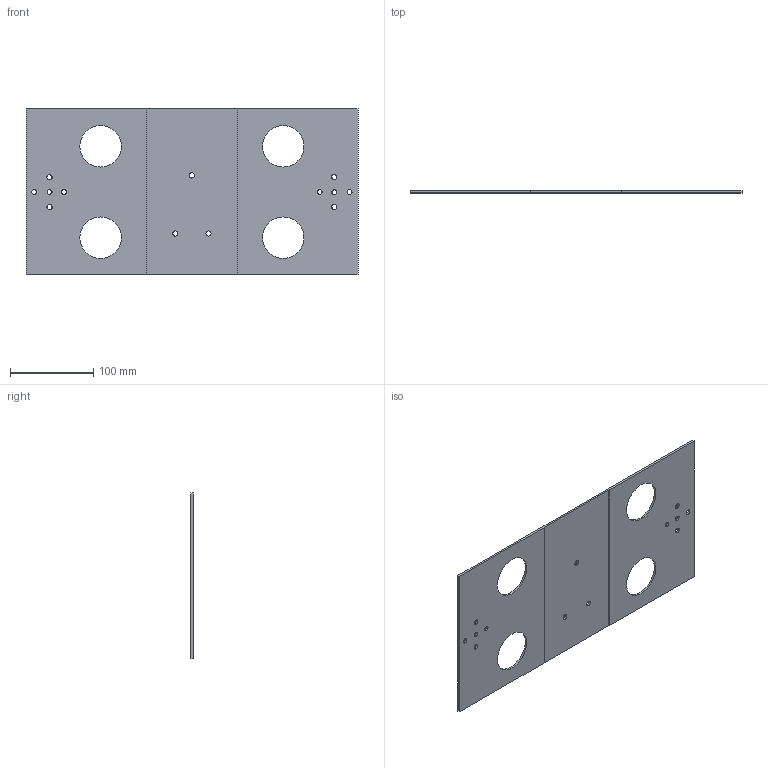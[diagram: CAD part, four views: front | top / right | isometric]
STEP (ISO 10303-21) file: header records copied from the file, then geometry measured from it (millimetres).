
FILE_DESCRIPTION( ( 'Unknown' ), '1' );
FILE_NAME( 'F:/navkite transat/construction/2016/3D ET ASSEMBLAGES/AMI/AMI 16 deplie.stp', 'Unknown', ( 'GMA' ), ( 'Unknown' ), 'XStep 1.0', 'Unknown', ' ' );
FILE_SCHEMA( ( 'automotive_design' ) );
Length unit declared in the file: millimetre
Products named in the file (1): 1
Bounding box: 400 x 2.5 x 200 mm (x, y, z)
Volume: 179379.7 mm3; surface area: 148710.9 mm2
Topology: 1 solids, 1 shells, 39 faces, 101 edges, 64 vertices
Faces by surface type: plane 22, cylinder 17
Full cylindrical faces by diameter (mm): 6 x6, 6.35 x7, 50 x4
Entity records: 1446 total; most frequent: DIRECTION 192, CARTESIAN_POINT 176, ORIENTED_EDGE 156, EDGE_LOOP 90, EDGE_CURVE 78, AXIS2_PLACEMENT_3D 74, VERTEX_POINT 58, FACE_OUTER_BOUND 56
